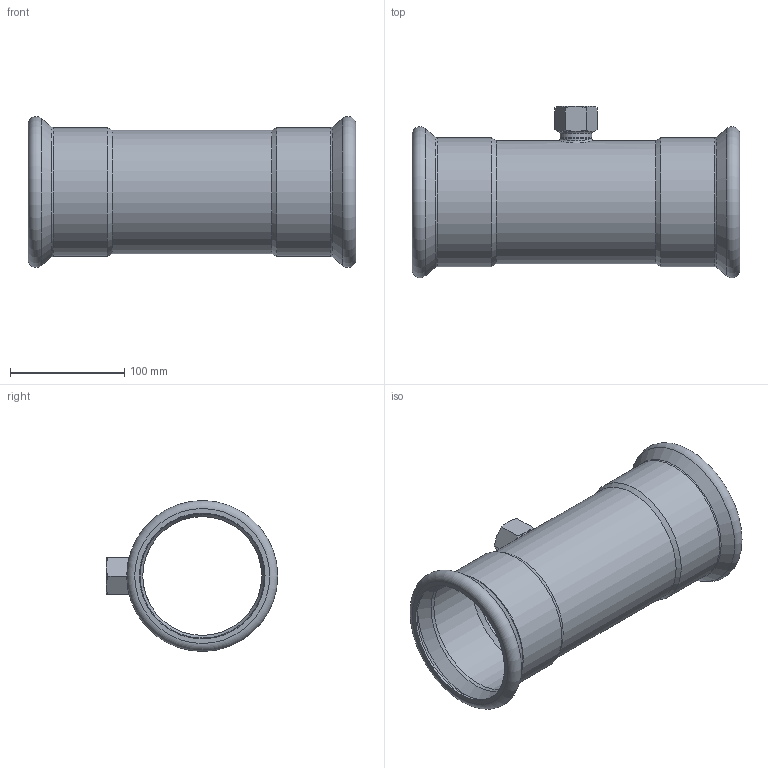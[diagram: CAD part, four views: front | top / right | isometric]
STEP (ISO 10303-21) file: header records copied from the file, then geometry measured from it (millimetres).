
FILE_DESCRIPTION((''),'2;1');
FILE_NAME('G:\Nirosan-Schmiedefeld\Technics\CAD\Bauteile VA\108\69130G10834108(2).stp','2012-07-10T15:35:11',('herberg'),(''),'Autodesk Inventor 2009','Autodesk Inventor 2009','');
FILE_SCHEMA(('AUTOMOTIVE_DESIGN { 1 0 10303 214 1 1 1 1 }'));
Length unit declared in the file: millimetre
Products named in the file (3): 69130G10834108(2); LM_6913010828108(0); IG2834(1)
Assembly tree (2 placements, depth 2):
  69130G10834108(2)
    LM_6913010828108(0)
    IG2834(1)
Bounding box: 287 x 150.1 x 132.2 mm (x, y, z)
Volume: 223820.5 mm3; surface area: 221061.6 mm2
Topology: 2 solids, 2 shells, 59 faces, 125 edges, 73 vertices
Faces by surface type: cone 21, plane 13, cylinder 11, bspline 10, torus 4
Full cylindrical faces by diameter (mm): 24 x1, 28 x2, 104 x1, 108 x1, 108.7 x2, 110 x2, 112.7 x2
Entity records: 3194 total; most frequent: CARTESIAN_POINT 2097, DIRECTION 214, ORIENTED_EDGE 170, AXIS2_PLACEMENT_3D 104, EDGE_LOOP 100, EDGE_CURVE 85, VERTEX_POINT 65, FACE_OUTER_BOUND 59
